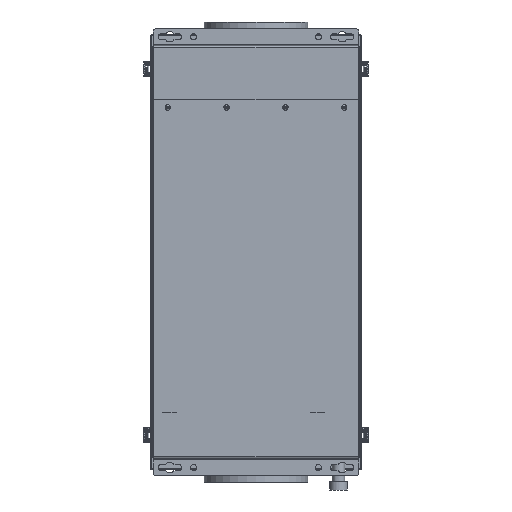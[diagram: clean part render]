
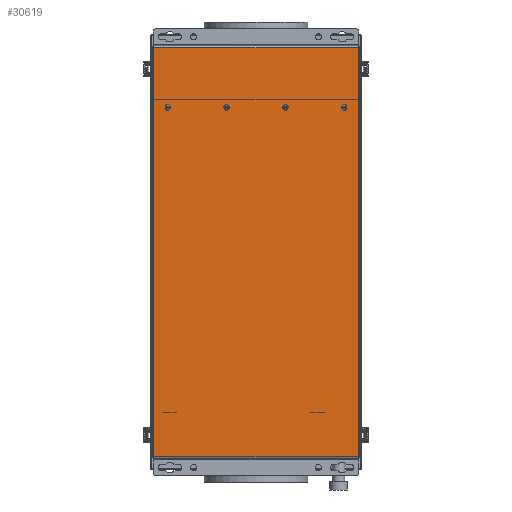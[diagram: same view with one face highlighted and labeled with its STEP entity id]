
A CAD part, front view. The second image highlights one B-rep face of the part: STEP entity #30619.
In plain terms, the highlighted planar face has unit normal (0, -1, 0).
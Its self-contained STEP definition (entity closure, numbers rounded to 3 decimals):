
#118 = DIRECTION ( 'NONE',  ( 0., 0., 1. ) ) ;
#314 = EDGE_CURVE ( 'NONE', #19004, #14915, #11177, .T. ) ;
#320 = DIRECTION ( 'NONE',  ( 0., 0., -1. ) ) ;
#344 = VERTEX_POINT ( 'NONE', #25497 ) ;
#565 = ORIENTED_EDGE ( 'NONE', *, *, #8126, .F. ) ;
#635 = CIRCLE ( 'NONE', #6858, 2.1 ) ;
#990 = EDGE_CURVE ( 'NONE', #19403, #6112, #635, .T. ) ;
#1749 = AXIS2_PLACEMENT_3D ( 'NONE', #30119, #15210, #320 ) ;
#1829 = FACE_BOUND ( 'NONE', #29889, .T. ) ;
#2288 = LINE ( 'NONE', #15703, #15470 ) ;
#2719 = VERTEX_POINT ( 'NONE', #4711 ) ;
#2879 = ORIENTED_EDGE ( 'NONE', *, *, #19008, .F. ) ;
#2884 = PLANE ( 'NONE',  #23816 ) ;
#2996 = DIRECTION ( 'NONE',  ( 0., -1., 0. ) ) ;
#3600 = LINE ( 'NONE', #12411, #16822 ) ;
#4240 = CARTESIAN_POINT ( 'NONE',  ( -42.667, 0., 210. ) ) ;
#4335 = CARTESIAN_POINT ( 'NONE',  ( -42.667, 0., 207.9 ) ) ;
#4711 = CARTESIAN_POINT ( 'NONE',  ( 148., 0., -297. ) ) ;
#4941 = CARTESIAN_POINT ( 'NONE',  ( 128., 0., 212.1 ) ) ;
#5553 = CARTESIAN_POINT ( 'NONE',  ( 42.667, 0., 210. ) ) ;
#5772 = EDGE_LOOP ( 'NONE', ( #19461, #21657 ) ) ;
#5997 = CARTESIAN_POINT ( 'NONE',  ( 42.667, 0., 212.1 ) ) ;
#6083 = FACE_OUTER_BOUND ( 'NONE', #25805, .T. ) ;
#6112 = VERTEX_POINT ( 'NONE', #4941 ) ;
#6251 = AXIS2_PLACEMENT_3D ( 'NONE', #5553, #22948, #8062 ) ;
#6549 = CIRCLE ( 'NONE', #32169, 2.1 ) ;
#6717 = DIRECTION ( 'NONE',  ( 0., 0., -1. ) ) ;
#6858 = AXIS2_PLACEMENT_3D ( 'NONE', #28507, #13591, #30991 ) ;
#7392 = DIRECTION ( 'NONE',  ( 0., 0., -1. ) ) ;
#7778 = CARTESIAN_POINT ( 'NONE',  ( 150., 0., 299. ) ) ;
#8062 = DIRECTION ( 'NONE',  ( 0., 0., -1. ) ) ;
#8087 = AXIS2_PLACEMENT_3D ( 'NONE', #9250, #26654, #11743 ) ;
#8126 = EDGE_CURVE ( 'NONE', #29219, #28188, #24242, .T. ) ;
#8760 = CARTESIAN_POINT ( 'NONE',  ( 42.667, 0., 210. ) ) ;
#9250 = CARTESIAN_POINT ( 'NONE',  ( 128., 0., 210. ) ) ;
#10316 = VECTOR ( 'NONE', #25878, 1000. ) ;
#10369 = DIRECTION ( 'NONE',  ( 0., 0., -1. ) ) ;
#10718 = DIRECTION ( 'NONE',  ( 1., 0., 0. ) ) ;
#10973 = EDGE_CURVE ( 'NONE', #14915, #19004, #25272, .T. ) ;
#11177 = CIRCLE ( 'NONE', #12475, 2.1 ) ;
#11264 = DIRECTION ( 'NONE',  ( 0., 0., -1. ) ) ;
#11389 = CARTESIAN_POINT ( 'NONE',  ( -42.667, 0., 210. ) ) ;
#11586 = EDGE_CURVE ( 'NONE', #28518, #2719, #2288, .T. ) ;
#11657 = EDGE_CURVE ( 'NONE', #28953, #21889, #6549, .T. ) ;
#11743 = DIRECTION ( 'NONE',  ( 0., 0., -1. ) ) ;
#11909 = FACE_BOUND ( 'NONE', #5772, .T. ) ;
#12411 = CARTESIAN_POINT ( 'NONE',  ( -148., 0., 299. ) ) ;
#12475 = AXIS2_PLACEMENT_3D ( 'NONE', #17910, #2996, #20377 ) ;
#12899 = ORIENTED_EDGE ( 'NONE', *, *, #990, .F. ) ;
#12960 = CIRCLE ( 'NONE', #17559, 2.1 ) ;
#13591 = DIRECTION ( 'NONE',  ( 0., -1., 0. ) ) ;
#13886 = DIRECTION ( 'NONE',  ( 0., 0., -1. ) ) ;
#14915 = VERTEX_POINT ( 'NONE', #27742 ) ;
#15210 = DIRECTION ( 'NONE',  ( 0., -1., 0. ) ) ;
#15254 = VECTOR ( 'NONE', #118, 1000. ) ;
#15470 = VECTOR ( 'NONE', #10718, 1000. ) ;
#15703 = CARTESIAN_POINT ( 'NONE',  ( -148., 0., -297. ) ) ;
#16822 = VECTOR ( 'NONE', #7392, 1000. ) ;
#16948 = LINE ( 'NONE', #18391, #10316 ) ;
#17559 = AXIS2_PLACEMENT_3D ( 'NONE', #4240, #21603, #6717 ) ;
#17910 = CARTESIAN_POINT ( 'NONE',  ( -128., 0., 210. ) ) ;
#18391 = CARTESIAN_POINT ( 'NONE',  ( 148., 0., 297. ) ) ;
#18539 = FACE_BOUND ( 'NONE', #31119, .T. ) ;
#19004 = VERTEX_POINT ( 'NONE', #22840 ) ;
#19008 = EDGE_CURVE ( 'NONE', #21889, #28953, #20056, .T. ) ;
#19403 = VERTEX_POINT ( 'NONE', #27198 ) ;
#19461 = ORIENTED_EDGE ( 'NONE', *, *, #10973, .F. ) ;
#19750 = ORIENTED_EDGE ( 'NONE', *, *, #31204, .T. ) ;
#20056 = CIRCLE ( 'NONE', #6251, 2.1 ) ;
#20377 = DIRECTION ( 'NONE',  ( 0., 0., -1. ) ) ;
#20451 = EDGE_CURVE ( 'NONE', #28188, #29219, #12960, .T. ) ;
#21131 = CARTESIAN_POINT ( 'NONE',  ( -148., 0., -297. ) ) ;
#21603 = DIRECTION ( 'NONE',  ( 0., -1., 0. ) ) ;
#21657 = ORIENTED_EDGE ( 'NONE', *, *, #314, .F. ) ;
#21889 = VERTEX_POINT ( 'NONE', #24544 ) ;
#22840 = CARTESIAN_POINT ( 'NONE',  ( -128., 0., 212.1 ) ) ;
#22865 = ORIENTED_EDGE ( 'NONE', *, *, #26998, .T. ) ;
#22948 = DIRECTION ( 'NONE',  ( 0., -1., 0. ) ) ;
#22989 = ORIENTED_EDGE ( 'NONE', *, *, #20451, .F. ) ;
#23816 = AXIS2_PLACEMENT_3D ( 'NONE', #7778, #25288, #10369 ) ;
#24242 = CIRCLE ( 'NONE', #24973, 2.1 ) ;
#24544 = CARTESIAN_POINT ( 'NONE',  ( 42.667, 0., 207.9 ) ) ;
#24547 = CIRCLE ( 'NONE', #8087, 2.1 ) ;
#24907 = CARTESIAN_POINT ( 'NONE',  ( 148., 0., -299. ) ) ;
#24973 = AXIS2_PLACEMENT_3D ( 'NONE', #11389, #28809, #13886 ) ;
#25159 = FACE_BOUND ( 'NONE', #27050, .T. ) ;
#25272 = CIRCLE ( 'NONE', #1749, 2.1 ) ;
#25288 = DIRECTION ( 'NONE',  ( 0., -1., 0. ) ) ;
#25311 = ORIENTED_EDGE ( 'NONE', *, *, #11657, .F. ) ;
#25497 = CARTESIAN_POINT ( 'NONE',  ( 148., 0., 297. ) ) ;
#25805 = EDGE_LOOP ( 'NONE', ( #30788, #30104, #22865, #19750 ) ) ;
#25878 = DIRECTION ( 'NONE',  ( -1., 0., 0. ) ) ;
#26173 = DIRECTION ( 'NONE',  ( 0., -1., 0. ) ) ;
#26654 = DIRECTION ( 'NONE',  ( 0., -1., 0. ) ) ;
#26961 = EDGE_CURVE ( 'NONE', #32118, #28518, #3600, .T. ) ;
#26998 = EDGE_CURVE ( 'NONE', #2719, #344, #28496, .T. ) ;
#27050 = EDGE_LOOP ( 'NONE', ( #2879, #25311 ) ) ;
#27198 = CARTESIAN_POINT ( 'NONE',  ( 128., 0., 207.9 ) ) ;
#27633 = EDGE_CURVE ( 'NONE', #6112, #19403, #24547, .T. ) ;
#27742 = CARTESIAN_POINT ( 'NONE',  ( -128., 0., 207.9 ) ) ;
#28188 = VERTEX_POINT ( 'NONE', #4335 ) ;
#28226 = ORIENTED_EDGE ( 'NONE', *, *, #27633, .F. ) ;
#28496 = LINE ( 'NONE', #24907, #15254 ) ;
#28507 = CARTESIAN_POINT ( 'NONE',  ( 128., 0., 210. ) ) ;
#28518 = VERTEX_POINT ( 'NONE', #21131 ) ;
#28809 = DIRECTION ( 'NONE',  ( 0., -1., 0. ) ) ;
#28953 = VERTEX_POINT ( 'NONE', #5997 ) ;
#29219 = VERTEX_POINT ( 'NONE', #29917 ) ;
#29889 = EDGE_LOOP ( 'NONE', ( #12899, #28226 ) ) ;
#29917 = CARTESIAN_POINT ( 'NONE',  ( -42.667, 0., 212.1 ) ) ;
#30104 = ORIENTED_EDGE ( 'NONE', *, *, #11586, .T. ) ;
#30119 = CARTESIAN_POINT ( 'NONE',  ( -128., 0., 210. ) ) ;
#30619 = ADVANCED_FACE ( 'NONE', ( #25159, #1829, #6083, #18539, #11909 ), #2884, .T. ) ;
#30788 = ORIENTED_EDGE ( 'NONE', *, *, #26961, .T. ) ;
#30913 = CARTESIAN_POINT ( 'NONE',  ( -148., 0., 297. ) ) ;
#30991 = DIRECTION ( 'NONE',  ( 0., 0., -1. ) ) ;
#31119 = EDGE_LOOP ( 'NONE', ( #22989, #565 ) ) ;
#31204 = EDGE_CURVE ( 'NONE', #344, #32118, #16948, .T. ) ;
#32118 = VERTEX_POINT ( 'NONE', #30913 ) ;
#32169 = AXIS2_PLACEMENT_3D ( 'NONE', #8760, #26173, #11264 ) ;
